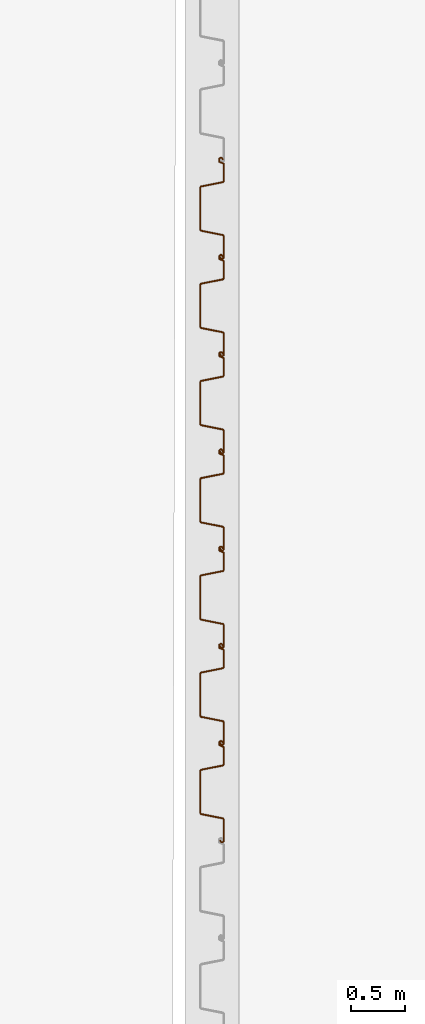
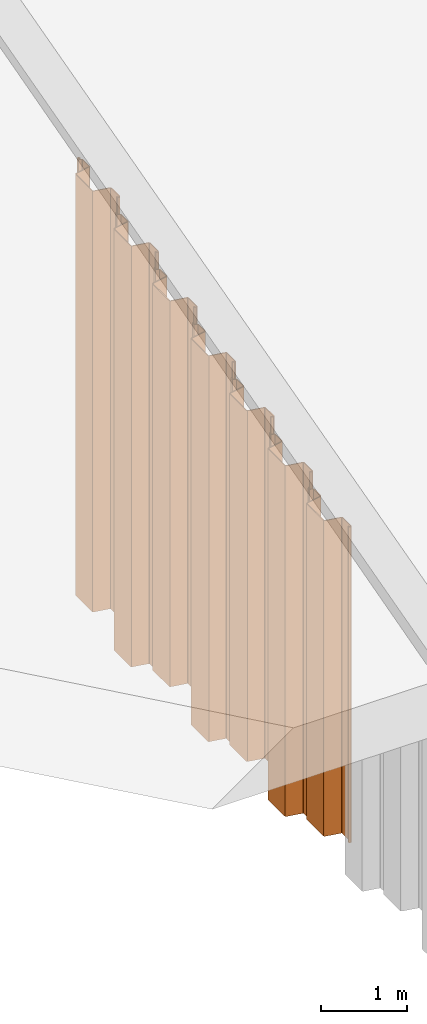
# One storey, part 5 of 32: 7 proxies.
"""IFC2X3 building model written with IfcOpenShell, lengths in millimetres."""

from ifc_helpers import new_model, entity, si_unit, converted_unit, derived_unit, direction, frame, frame_2d, origin, place, context, subcontext, project, spatial, polyline, circle_curve, parameter, trimmed, segment, composite_curve, outline, extrude, source, transform, mapped, type_object, type_shapes, element, save


model = new_model("IFC2X3")

# Units and contexts
model_context = context("Model", 3, precision=0.01, world=origin(), true_north=direction((6.12303176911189e-17, 1.0)))
body_context = subcontext(model_context, "Body", "Model", "MODEL_VIEW")
ifc_project = project(units=[si_unit("LENGTHUNIT", "METRE", prefix="MILLI"), si_unit("AREAUNIT", "SQUARE_METRE"), si_unit("VOLUMEUNIT", "CUBIC_METRE"), converted_unit("PLANEANGLEUNIT", "DEGREE", entity("IfcRatioMeasure", 0.0174532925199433), si_unit("PLANEANGLEUNIT", "RADIAN"), dimensions=[0, 0, 0, 0, 0, 0, 0]), si_unit("MASSUNIT", "GRAM", prefix="KILO"), derived_unit("MASSDENSITYUNIT", [(si_unit("MASSUNIT", "GRAM", prefix="KILO"), 1), (si_unit("LENGTHUNIT", "METRE"), -3)]), si_unit("TIMEUNIT", "SECOND"), si_unit("FREQUENCYUNIT", "HERTZ"), si_unit("THERMODYNAMICTEMPERATUREUNIT", "DEGREE_CELSIUS"), derived_unit("THERMALTRANSMITTANCEUNIT", [(si_unit("MASSUNIT", "GRAM", prefix="KILO"), 1), (si_unit("THERMODYNAMICTEMPERATUREUNIT", "KELVIN"), -1), (si_unit("TIMEUNIT", "SECOND"), -3)]), derived_unit("VOLUMETRICFLOWRATEUNIT", [(si_unit("LENGTHUNIT", "METRE"), 3), (si_unit("TIMEUNIT", "SECOND"), -1)]), si_unit("ELECTRICCURRENTUNIT", "AMPERE"), si_unit("ELECTRICVOLTAGEUNIT", "VOLT"), si_unit("POWERUNIT", "WATT"), si_unit("FORCEUNIT", "NEWTON", prefix="KILO"), si_unit("ILLUMINANCEUNIT", "LUX"), si_unit("LUMINOUSFLUXUNIT", "LUMEN"), si_unit("LUMINOUSINTENSITYUNIT", "CANDELA"), derived_unit("USERDEFINED", [(si_unit("MASSUNIT", "GRAM", prefix="KILO"), -1), (si_unit("LENGTHUNIT", "METRE"), -2), (si_unit("TIMEUNIT", "SECOND"), 3), (si_unit("LUMINOUSFLUXUNIT", "LUMEN"), 1)]), derived_unit("LINEARVELOCITYUNIT", [(si_unit("LENGTHUNIT", "METRE"), 1), (si_unit("TIMEUNIT", "SECOND"), -1)]), si_unit("PRESSUREUNIT", "PASCAL"), derived_unit("USERDEFINED", [(si_unit("LENGTHUNIT", "METRE"), -2), (si_unit("MASSUNIT", "GRAM", prefix="KILO"), 1), (si_unit("TIMEUNIT", "SECOND"), -2)])], contexts=[model_context])

# Site, building, storey
site_placement = place(None, origin())
site = spatial("IfcSite", under=ifc_project, at=site_placement, Name="Default", CompositionType="ELEMENT")
building_placement = place(site_placement, origin())
building = spatial("IfcBuilding", under=site, at=building_placement, CompositionType="ELEMENT")
storey_placement = place(building_placement, origin())
storey = spatial("IfcBuildingStorey", under=building, at=storey_placement, Name="矢板", CompositionType="ELEMENT", Elevation=0.0)

# Proxies
building_element_proxy_type_1 = type_object("IfcBuildingElementProxyType", Name="鋼矢板10H型", PredefinedType="NOTDEFINED")
shared_shape_1 = source(origin(), body_context, "Body", "SweptSolid", [
    extrude(outline(composite_curve([segment(trimmed(circle_curve(frame_2d((85.3662976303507, 306.644432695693), x_axis=(0.422618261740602, 0.906307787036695)), 13.885714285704), [parameter(24.9999999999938)], [parameter(90.0000000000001)], True, "PARAMETER"), True, "CONTINUOUS"), segment(polyline([(72.7815666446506, 312.512789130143), (9.8129512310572, 177.476157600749)]), True, "CONTINUOUS"), segment(trimmed(circle_curve(frame_2d((29.3891994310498, 168.347603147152), x_axis=(0.422618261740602, 0.906307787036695)), 21.6), [parameter(90.0000000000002)], [parameter(168.69006752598)], True, "PARAMETER"), True, "CONTINUOUS"), segment(polyline([(16.598697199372, 150.941769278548), (175.329723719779, 34.2998683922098)]), True, "CONTINUOUS"), segment(trimmed(circle_curve(frame_2d((168.93447260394, 25.596951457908), x_axis=(0.422618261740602, 0.906307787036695)), 10.7999999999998), [parameter(270.0)], [parameter(348.690067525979)], True, "PARAMETER"), False, "CONTINUOUS"), segment(polyline([(178.722596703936, 21.0326742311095), (18.2974003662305, -323.000269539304)]), True, "CONTINUOUS"), segment(trimmed(circle_curve(frame_2d((8.50927626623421, -318.435992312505), x_axis=(0.422618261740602, 0.906307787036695)), 10.8), [parameter(191.30993247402)], [parameter(269.999999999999)], True, "PARAMETER"), False, "CONTINUOUS"), segment(polyline([(5.95324328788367, -328.929166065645), (-185.429973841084, -282.310113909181)]), True, "CONTINUOUS"), segment(trimmed(circle_curve(frame_2d((-190.542039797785, -303.296461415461), x_axis=(0.422618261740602, 0.906307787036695)), 21.6000000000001), [parameter(11.3099324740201)], [parameter(90.0000000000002)], True, "PARAMETER"), True, "CONTINUOUS"), segment(polyline([(-210.118287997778, -294.167906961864), (-290.330886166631, -466.184378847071)]), True, "CONTINUOUS"), segment(trimmed(circle_curve(frame_2d((-270.754637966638, -475.312933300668), x_axis=(0.422618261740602, 0.906307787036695)), 21.6), [parameter(90.0000000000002)], [parameter(269.999999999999)], True, "PARAMETER"), True, "CONTINUOUS"), segment(polyline([(-251.178389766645, -484.441487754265), (-249.065298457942, -479.909948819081)]), True, "CONTINUOUS"), segment(polyline([(-249.065298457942, -479.909948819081), (-258.853422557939, -475.345671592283)]), True, "CONTINUOUS"), segment(polyline([(-258.853422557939, -475.345671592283), (-260.966513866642, -479.877210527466)]), True, "CONTINUOUS"), segment(trimmed(circle_curve(frame_2d((-270.754637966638, -475.312933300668), x_axis=(0.422618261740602, 0.906307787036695)), 10.8), [parameter(90.0000000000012)], [parameter(270.0)], True, "PARAMETER"), False, "CONTINUOUS"), segment(polyline([(-280.542762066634, -470.748656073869), (-200.330163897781, -298.732184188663)]), True, "CONTINUOUS"), segment(trimmed(circle_curve(frame_2d((-190.542039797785, -303.296461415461), x_axis=(0.422618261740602, 0.906307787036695)), 10.8), [parameter(11.3099324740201)], [parameter(89.9999999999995)], True, "PARAMETER"), False, "CONTINUOUS"), segment(polyline([(-187.986006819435, -292.803287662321), (3.39721030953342, -339.422339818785)]), True, "CONTINUOUS"), segment(trimmed(circle_curve(frame_2d((8.50927626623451, -318.435992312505), x_axis=(0.422618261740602, 0.906307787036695)), 21.6), [parameter(191.30993247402)], [parameter(270.0)], True, "PARAMETER"), True, "CONTINUOUS"), segment(polyline([(28.0855244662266, -327.564546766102), (188.510720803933, 16.4683970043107)]), True, "CONTINUOUS"), segment(trimmed(circle_curve(frame_2d((168.93447260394, 25.5969514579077), x_axis=(0.422618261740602, 0.906307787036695)), 21.6), [parameter(270.0)], [parameter(348.69006752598)], True, "PARAMETER"), True, "CONTINUOUS"), segment(polyline([(181.724974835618, 43.0027853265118), (22.9939483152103, 159.644686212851)]), True, "CONTINUOUS"), segment(trimmed(circle_curve(frame_2d((29.3891994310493, 168.347603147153), x_axis=(0.422618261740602, 0.906307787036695)), 10.7999999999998), [parameter(89.9999999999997)], [parameter(168.690067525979)], True, "PARAMETER"), False, "CONTINUOUS"), segment(polyline([(19.6010753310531, 172.911880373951), (82.5696907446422, 307.948511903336)]), True, "CONTINUOUS"), segment(trimmed(circle_curve(frame_2d((85.3662976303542, 306.64443269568), x_axis=(0.422618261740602, 0.906307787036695)), 3.08571428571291), [parameter(25.0000000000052)], [parameter(90.0000000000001)], True, "PARAMETER"), False, "CONTINUOUS"), segment(polyline([(85.3662976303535, 309.730146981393), (122.220231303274, 309.730146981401)]), True, "CONTINUOUS"), segment(trimmed(circle_curve(frame_2d((122.220231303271, 323.615861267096), x_axis=(0.422618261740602, 0.906307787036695)), 13.8857142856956), [parameter(205.000000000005)], [parameter(270.0)], True, "PARAMETER"), True, "CONTINUOUS"), segment(polyline([(134.804962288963, 317.747504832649), (141.079261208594, 331.202782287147)]), True, "CONTINUOUS"), segment(trimmed(circle_curve(frame_2d((121.503013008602, 340.331336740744), x_axis=(0.422618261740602, 0.906307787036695)), 21.6), [parameter(270.0)], [parameter(90.0000000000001)], True, "PARAMETER"), True, "CONTINUOUS"), segment(polyline([(101.926764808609, 349.459891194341), (99.8136734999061, 344.928352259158)]), True, "CONTINUOUS"), segment(polyline([(99.8136734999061, 344.928352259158), (109.601797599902, 340.364075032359)]), True, "CONTINUOUS"), segment(polyline([(109.601797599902, 340.364075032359), (111.714888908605, 344.895613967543)]), True, "CONTINUOUS"), segment(trimmed(circle_curve(frame_2d((121.503013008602, 340.331336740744), x_axis=(0.422618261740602, 0.906307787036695)), 10.8), [parameter(270.0)], [parameter(89.9999999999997)], True, "PARAMETER"), False, "CONTINUOUS"), segment(polyline([(131.291137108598, 335.767059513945), (125.01683818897, 322.311782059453)]), True, "CONTINUOUS"), segment(trimmed(circle_curve(frame_2d((122.220231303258, 323.615861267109), x_axis=(0.422618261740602, 0.906307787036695)), 3.08571428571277), [parameter(204.999999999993)], [parameter(270.0)], True, "PARAMETER"), False, "CONTINUOUS"), segment(polyline([(122.220231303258, 320.530146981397), (85.3662976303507, 320.530146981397)]), True, "CONTINUOUS")], self_intersect=False)), frame((95.205667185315, -48.8888888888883, -6000.0), z_axis=(0.0, 0.0, -1.0), x_axis=(0.4226182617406, 0.906307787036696, 0.0)), (0.0, 0.0, -1.0), 6000.0),
])
type_shapes(building_element_proxy_type_1, [shared_shape_1])
for number, where, z_axis, x_axis in (
    (1, (-128208.0, -24049.0, 8234.0), (0.0, 0.0, 1.0), (0.0, 1.0, 0.0)),
    (2, (-128208.0, -24949.0, 7997.0), (0.0, 0.0, 1.0), (0.0, 1.0, 0.0)),
):
    element("IfcBuildingElementProxy", number, at=place(storey_placement, frame(where, z_axis=z_axis, x_axis=x_axis)), inside=storey, type_object=building_element_proxy_type_1, Name="鋼矢板10H型:鋼矢板10H型", ObjectType="鋼矢板10H型:鋼矢板10H型", context=body_context, shape_type="MappedRepresentation", body=[
        mapped(shared_shape_1, transform((0.0, 0.0, 0.0), scale=1.0)),
    ])
building_element_proxy_type_2 = type_object("IfcBuildingElementProxyType", Name="鋼矢板10H型", PredefinedType="NOTDEFINED")
shared_shape_2 = source(origin(), body_context, "Body", "SweptSolid", [
    extrude(outline(composite_curve([segment(trimmed(circle_curve(frame_2d((85.3662976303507, 306.644432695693), x_axis=(0.422618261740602, 0.906307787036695)), 13.885714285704), [parameter(24.9999999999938)], [parameter(90.0000000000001)], True, "PARAMETER"), True, "CONTINUOUS"), segment(polyline([(72.7815666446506, 312.512789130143), (9.8129512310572, 177.476157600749)]), True, "CONTINUOUS"), segment(trimmed(circle_curve(frame_2d((29.3891994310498, 168.347603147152), x_axis=(0.422618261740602, 0.906307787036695)), 21.6), [parameter(90.0000000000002)], [parameter(168.69006752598)], True, "PARAMETER"), True, "CONTINUOUS"), segment(polyline([(16.598697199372, 150.941769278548), (175.329723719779, 34.2998683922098)]), True, "CONTINUOUS"), segment(trimmed(circle_curve(frame_2d((168.93447260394, 25.596951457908), x_axis=(0.422618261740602, 0.906307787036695)), 10.7999999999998), [parameter(270.0)], [parameter(348.690067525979)], True, "PARAMETER"), False, "CONTINUOUS"), segment(polyline([(178.722596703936, 21.0326742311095), (18.2974003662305, -323.000269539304)]), True, "CONTINUOUS"), segment(trimmed(circle_curve(frame_2d((8.50927626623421, -318.435992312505), x_axis=(0.422618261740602, 0.906307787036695)), 10.8), [parameter(191.30993247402)], [parameter(269.999999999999)], True, "PARAMETER"), False, "CONTINUOUS"), segment(polyline([(5.95324328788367, -328.929166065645), (-185.429973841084, -282.310113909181)]), True, "CONTINUOUS"), segment(trimmed(circle_curve(frame_2d((-190.542039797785, -303.296461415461), x_axis=(0.422618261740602, 0.906307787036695)), 21.6000000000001), [parameter(11.3099324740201)], [parameter(90.0000000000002)], True, "PARAMETER"), True, "CONTINUOUS"), segment(polyline([(-210.118287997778, -294.167906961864), (-290.330886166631, -466.184378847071)]), True, "CONTINUOUS"), segment(trimmed(circle_curve(frame_2d((-270.754637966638, -475.312933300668), x_axis=(0.422618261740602, 0.906307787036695)), 21.6), [parameter(90.0000000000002)], [parameter(269.999999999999)], True, "PARAMETER"), True, "CONTINUOUS"), segment(polyline([(-251.178389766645, -484.441487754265), (-249.065298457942, -479.909948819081)]), True, "CONTINUOUS"), segment(polyline([(-249.065298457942, -479.909948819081), (-258.853422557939, -475.345671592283)]), True, "CONTINUOUS"), segment(polyline([(-258.853422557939, -475.345671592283), (-260.966513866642, -479.877210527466)]), True, "CONTINUOUS"), segment(trimmed(circle_curve(frame_2d((-270.754637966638, -475.312933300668), x_axis=(0.422618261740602, 0.906307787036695)), 10.8), [parameter(90.0000000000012)], [parameter(270.0)], True, "PARAMETER"), False, "CONTINUOUS"), segment(polyline([(-280.542762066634, -470.748656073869), (-200.330163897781, -298.732184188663)]), True, "CONTINUOUS"), segment(trimmed(circle_curve(frame_2d((-190.542039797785, -303.296461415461), x_axis=(0.422618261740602, 0.906307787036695)), 10.8), [parameter(11.3099324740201)], [parameter(89.9999999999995)], True, "PARAMETER"), False, "CONTINUOUS"), segment(polyline([(-187.986006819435, -292.803287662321), (3.39721030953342, -339.422339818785)]), True, "CONTINUOUS"), segment(trimmed(circle_curve(frame_2d((8.50927626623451, -318.435992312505), x_axis=(0.422618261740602, 0.906307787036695)), 21.6), [parameter(191.30993247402)], [parameter(270.0)], True, "PARAMETER"), True, "CONTINUOUS"), segment(polyline([(28.0855244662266, -327.564546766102), (188.510720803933, 16.4683970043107)]), True, "CONTINUOUS"), segment(trimmed(circle_curve(frame_2d((168.93447260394, 25.5969514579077), x_axis=(0.422618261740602, 0.906307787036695)), 21.6), [parameter(270.0)], [parameter(348.69006752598)], True, "PARAMETER"), True, "CONTINUOUS"), segment(polyline([(181.724974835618, 43.0027853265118), (22.9939483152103, 159.644686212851)]), True, "CONTINUOUS"), segment(trimmed(circle_curve(frame_2d((29.3891994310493, 168.347603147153), x_axis=(0.422618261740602, 0.906307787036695)), 10.7999999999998), [parameter(89.9999999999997)], [parameter(168.690067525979)], True, "PARAMETER"), False, "CONTINUOUS"), segment(polyline([(19.6010753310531, 172.911880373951), (82.5696907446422, 307.948511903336)]), True, "CONTINUOUS"), segment(trimmed(circle_curve(frame_2d((85.3662976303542, 306.64443269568), x_axis=(0.422618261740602, 0.906307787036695)), 3.08571428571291), [parameter(25.0000000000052)], [parameter(90.0000000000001)], True, "PARAMETER"), False, "CONTINUOUS"), segment(polyline([(85.3662976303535, 309.730146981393), (122.220231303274, 309.730146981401)]), True, "CONTINUOUS"), segment(trimmed(circle_curve(frame_2d((122.220231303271, 323.615861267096), x_axis=(0.422618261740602, 0.906307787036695)), 13.8857142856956), [parameter(205.000000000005)], [parameter(270.0)], True, "PARAMETER"), True, "CONTINUOUS"), segment(polyline([(134.804962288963, 317.747504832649), (141.079261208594, 331.202782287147)]), True, "CONTINUOUS"), segment(trimmed(circle_curve(frame_2d((121.503013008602, 340.331336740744), x_axis=(0.422618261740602, 0.906307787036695)), 21.6), [parameter(270.0)], [parameter(90.0000000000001)], True, "PARAMETER"), True, "CONTINUOUS"), segment(polyline([(101.926764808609, 349.459891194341), (99.8136734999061, 344.928352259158)]), True, "CONTINUOUS"), segment(polyline([(99.8136734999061, 344.928352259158), (109.601797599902, 340.364075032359)]), True, "CONTINUOUS"), segment(polyline([(109.601797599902, 340.364075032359), (111.714888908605, 344.895613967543)]), True, "CONTINUOUS"), segment(trimmed(circle_curve(frame_2d((121.503013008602, 340.331336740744), x_axis=(0.422618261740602, 0.906307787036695)), 10.8), [parameter(270.0)], [parameter(89.9999999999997)], True, "PARAMETER"), False, "CONTINUOUS"), segment(polyline([(131.291137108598, 335.767059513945), (125.01683818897, 322.311782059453)]), True, "CONTINUOUS"), segment(trimmed(circle_curve(frame_2d((122.220231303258, 323.615861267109), x_axis=(0.422618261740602, 0.906307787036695)), 3.08571428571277), [parameter(204.999999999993)], [parameter(270.0)], True, "PARAMETER"), False, "CONTINUOUS"), segment(polyline([(122.220231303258, 320.530146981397), (85.3662976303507, 320.530146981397)]), True, "CONTINUOUS")], self_intersect=False)), frame((95.205667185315, -48.8888888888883, -5500.0), z_axis=(0.0, 0.0, -1.0), x_axis=(0.4226182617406, 0.906307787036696, 0.0)), (0.0, 0.0, -1.0), 5500.0),
])
type_shapes(building_element_proxy_type_2, [shared_shape_2])
for number, where, z_axis, x_axis in (
    (3, (-128208.0, -25849.0, 7760.0), (0.0, 0.0, 1.0), (0.0, 1.0, 0.0)),
    (4, (-128208.0, -26749.0, 7523.0), (0.0, 0.0, 1.0), (0.0, 1.0, 0.0)),
):
    element("IfcBuildingElementProxy", number, at=place(storey_placement, frame(where, z_axis=z_axis, x_axis=x_axis)), inside=storey, type_object=building_element_proxy_type_2, Name="鋼矢板10H型:鋼矢板10H型", ObjectType="鋼矢板10H型:鋼矢板10H型", context=body_context, shape_type="MappedRepresentation", body=[
        mapped(shared_shape_2, transform((0.0, 0.0, 0.0), scale=1.0)),
    ])
building_element_proxy_type_3 = type_object("IfcBuildingElementProxyType", Name="鋼矢板10H型", PredefinedType="NOTDEFINED")
shared_shape_3 = source(origin(), body_context, "Body", "SweptSolid", [
    extrude(outline(composite_curve([segment(trimmed(circle_curve(frame_2d((85.3662976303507, 306.644432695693), x_axis=(0.422618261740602, 0.906307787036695)), 13.885714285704), [parameter(24.9999999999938)], [parameter(90.0000000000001)], True, "PARAMETER"), True, "CONTINUOUS"), segment(polyline([(72.7815666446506, 312.512789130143), (9.8129512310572, 177.476157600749)]), True, "CONTINUOUS"), segment(trimmed(circle_curve(frame_2d((29.3891994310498, 168.347603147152), x_axis=(0.422618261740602, 0.906307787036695)), 21.6), [parameter(90.0000000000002)], [parameter(168.69006752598)], True, "PARAMETER"), True, "CONTINUOUS"), segment(polyline([(16.598697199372, 150.941769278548), (175.329723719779, 34.2998683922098)]), True, "CONTINUOUS"), segment(trimmed(circle_curve(frame_2d((168.93447260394, 25.596951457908), x_axis=(0.422618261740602, 0.906307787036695)), 10.7999999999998), [parameter(270.0)], [parameter(348.690067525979)], True, "PARAMETER"), False, "CONTINUOUS"), segment(polyline([(178.722596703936, 21.0326742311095), (18.2974003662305, -323.000269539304)]), True, "CONTINUOUS"), segment(trimmed(circle_curve(frame_2d((8.50927626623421, -318.435992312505), x_axis=(0.422618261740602, 0.906307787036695)), 10.8), [parameter(191.30993247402)], [parameter(269.999999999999)], True, "PARAMETER"), False, "CONTINUOUS"), segment(polyline([(5.95324328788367, -328.929166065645), (-185.429973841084, -282.310113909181)]), True, "CONTINUOUS"), segment(trimmed(circle_curve(frame_2d((-190.542039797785, -303.296461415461), x_axis=(0.422618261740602, 0.906307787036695)), 21.6000000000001), [parameter(11.3099324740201)], [parameter(90.0000000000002)], True, "PARAMETER"), True, "CONTINUOUS"), segment(polyline([(-210.118287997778, -294.167906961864), (-290.330886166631, -466.184378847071)]), True, "CONTINUOUS"), segment(trimmed(circle_curve(frame_2d((-270.754637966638, -475.312933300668), x_axis=(0.422618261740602, 0.906307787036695)), 21.6), [parameter(90.0000000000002)], [parameter(269.999999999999)], True, "PARAMETER"), True, "CONTINUOUS"), segment(polyline([(-251.178389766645, -484.441487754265), (-249.065298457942, -479.909948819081)]), True, "CONTINUOUS"), segment(polyline([(-249.065298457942, -479.909948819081), (-258.853422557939, -475.345671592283)]), True, "CONTINUOUS"), segment(polyline([(-258.853422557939, -475.345671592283), (-260.966513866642, -479.877210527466)]), True, "CONTINUOUS"), segment(trimmed(circle_curve(frame_2d((-270.754637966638, -475.312933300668), x_axis=(0.422618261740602, 0.906307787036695)), 10.8), [parameter(90.0000000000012)], [parameter(270.0)], True, "PARAMETER"), False, "CONTINUOUS"), segment(polyline([(-280.542762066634, -470.748656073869), (-200.330163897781, -298.732184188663)]), True, "CONTINUOUS"), segment(trimmed(circle_curve(frame_2d((-190.542039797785, -303.296461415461), x_axis=(0.422618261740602, 0.906307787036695)), 10.8), [parameter(11.3099324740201)], [parameter(89.9999999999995)], True, "PARAMETER"), False, "CONTINUOUS"), segment(polyline([(-187.986006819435, -292.803287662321), (3.39721030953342, -339.422339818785)]), True, "CONTINUOUS"), segment(trimmed(circle_curve(frame_2d((8.50927626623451, -318.435992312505), x_axis=(0.422618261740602, 0.906307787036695)), 21.6), [parameter(191.30993247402)], [parameter(270.0)], True, "PARAMETER"), True, "CONTINUOUS"), segment(polyline([(28.0855244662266, -327.564546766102), (188.510720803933, 16.4683970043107)]), True, "CONTINUOUS"), segment(trimmed(circle_curve(frame_2d((168.93447260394, 25.5969514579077), x_axis=(0.422618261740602, 0.906307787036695)), 21.6), [parameter(270.0)], [parameter(348.69006752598)], True, "PARAMETER"), True, "CONTINUOUS"), segment(polyline([(181.724974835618, 43.0027853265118), (22.9939483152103, 159.644686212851)]), True, "CONTINUOUS"), segment(trimmed(circle_curve(frame_2d((29.3891994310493, 168.347603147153), x_axis=(0.422618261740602, 0.906307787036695)), 10.7999999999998), [parameter(89.9999999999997)], [parameter(168.690067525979)], True, "PARAMETER"), False, "CONTINUOUS"), segment(polyline([(19.6010753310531, 172.911880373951), (82.5696907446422, 307.948511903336)]), True, "CONTINUOUS"), segment(trimmed(circle_curve(frame_2d((85.3662976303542, 306.64443269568), x_axis=(0.422618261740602, 0.906307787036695)), 3.08571428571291), [parameter(25.0000000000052)], [parameter(90.0000000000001)], True, "PARAMETER"), False, "CONTINUOUS"), segment(polyline([(85.3662976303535, 309.730146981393), (122.220231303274, 309.730146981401)]), True, "CONTINUOUS"), segment(trimmed(circle_curve(frame_2d((122.220231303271, 323.615861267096), x_axis=(0.422618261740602, 0.906307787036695)), 13.8857142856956), [parameter(205.000000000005)], [parameter(270.0)], True, "PARAMETER"), True, "CONTINUOUS"), segment(polyline([(134.804962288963, 317.747504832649), (141.079261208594, 331.202782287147)]), True, "CONTINUOUS"), segment(trimmed(circle_curve(frame_2d((121.503013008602, 340.331336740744), x_axis=(0.422618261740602, 0.906307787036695)), 21.6), [parameter(270.0)], [parameter(90.0000000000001)], True, "PARAMETER"), True, "CONTINUOUS"), segment(polyline([(101.926764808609, 349.459891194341), (99.8136734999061, 344.928352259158)]), True, "CONTINUOUS"), segment(polyline([(99.8136734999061, 344.928352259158), (109.601797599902, 340.364075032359)]), True, "CONTINUOUS"), segment(polyline([(109.601797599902, 340.364075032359), (111.714888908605, 344.895613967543)]), True, "CONTINUOUS"), segment(trimmed(circle_curve(frame_2d((121.503013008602, 340.331336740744), x_axis=(0.422618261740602, 0.906307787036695)), 10.8), [parameter(270.0)], [parameter(89.9999999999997)], True, "PARAMETER"), False, "CONTINUOUS"), segment(polyline([(131.291137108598, 335.767059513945), (125.01683818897, 322.311782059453)]), True, "CONTINUOUS"), segment(trimmed(circle_curve(frame_2d((122.220231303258, 323.615861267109), x_axis=(0.422618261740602, 0.906307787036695)), 3.08571428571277), [parameter(204.999999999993)], [parameter(270.0)], True, "PARAMETER"), False, "CONTINUOUS"), segment(polyline([(122.220231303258, 320.530146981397), (85.3662976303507, 320.530146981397)]), True, "CONTINUOUS")], self_intersect=False)), frame((95.205667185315, -48.8888888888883, -5000.0), z_axis=(0.0, 0.0, -1.0), x_axis=(0.4226182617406, 0.906307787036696, 0.0)), (0.0, 0.0, -1.0), 5000.0),
])
type_shapes(building_element_proxy_type_3, [shared_shape_3])
for number, where, z_axis, x_axis in (
    (5, (-128208.0, -27649.0, 7286.0), (0.0, 0.0, 1.0), (0.0, 1.0, 0.0)),
    (6, (-128208.0, -28549.0, 7049.0), (0.0, 0.0, 1.0), (0.0, 1.0, 0.0)),
):
    element("IfcBuildingElementProxy", number, at=place(storey_placement, frame(where, z_axis=z_axis, x_axis=x_axis)), inside=storey, type_object=building_element_proxy_type_3, Name="鋼矢板10H型:鋼矢板10H型", ObjectType="鋼矢板10H型:鋼矢板10H型", context=body_context, shape_type="MappedRepresentation", body=[
        mapped(shared_shape_3, transform((0.0, 0.0, 0.0), scale=1.0)),
    ])
building_element_proxy_type_4 = type_object("IfcBuildingElementProxyType", Name="鋼矢板10H型", PredefinedType="NOTDEFINED")
shared_shape_4 = source(origin(), body_context, "Body", "SweptSolid", [
    extrude(outline(composite_curve([segment(trimmed(circle_curve(frame_2d((85.3662976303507, 306.644432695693), x_axis=(0.422618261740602, 0.906307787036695)), 13.885714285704), [parameter(24.9999999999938)], [parameter(90.0000000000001)], True, "PARAMETER"), True, "CONTINUOUS"), segment(polyline([(72.7815666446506, 312.512789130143), (9.8129512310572, 177.476157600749)]), True, "CONTINUOUS"), segment(trimmed(circle_curve(frame_2d((29.3891994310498, 168.347603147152), x_axis=(0.422618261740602, 0.906307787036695)), 21.6), [parameter(90.0000000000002)], [parameter(168.69006752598)], True, "PARAMETER"), True, "CONTINUOUS"), segment(polyline([(16.598697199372, 150.941769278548), (175.329723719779, 34.2998683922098)]), True, "CONTINUOUS"), segment(trimmed(circle_curve(frame_2d((168.93447260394, 25.596951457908), x_axis=(0.422618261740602, 0.906307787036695)), 10.7999999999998), [parameter(270.0)], [parameter(348.690067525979)], True, "PARAMETER"), False, "CONTINUOUS"), segment(polyline([(178.722596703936, 21.0326742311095), (18.2974003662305, -323.000269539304)]), True, "CONTINUOUS"), segment(trimmed(circle_curve(frame_2d((8.50927626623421, -318.435992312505), x_axis=(0.422618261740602, 0.906307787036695)), 10.8), [parameter(191.30993247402)], [parameter(269.999999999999)], True, "PARAMETER"), False, "CONTINUOUS"), segment(polyline([(5.95324328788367, -328.929166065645), (-185.429973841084, -282.310113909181)]), True, "CONTINUOUS"), segment(trimmed(circle_curve(frame_2d((-190.542039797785, -303.296461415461), x_axis=(0.422618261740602, 0.906307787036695)), 21.6000000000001), [parameter(11.3099324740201)], [parameter(90.0000000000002)], True, "PARAMETER"), True, "CONTINUOUS"), segment(polyline([(-210.118287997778, -294.167906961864), (-290.330886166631, -466.184378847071)]), True, "CONTINUOUS"), segment(trimmed(circle_curve(frame_2d((-270.754637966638, -475.312933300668), x_axis=(0.422618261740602, 0.906307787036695)), 21.6), [parameter(90.0000000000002)], [parameter(269.999999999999)], True, "PARAMETER"), True, "CONTINUOUS"), segment(polyline([(-251.178389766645, -484.441487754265), (-249.065298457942, -479.909948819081)]), True, "CONTINUOUS"), segment(polyline([(-249.065298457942, -479.909948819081), (-258.853422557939, -475.345671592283)]), True, "CONTINUOUS"), segment(polyline([(-258.853422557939, -475.345671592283), (-260.966513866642, -479.877210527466)]), True, "CONTINUOUS"), segment(trimmed(circle_curve(frame_2d((-270.754637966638, -475.312933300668), x_axis=(0.422618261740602, 0.906307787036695)), 10.8), [parameter(90.0000000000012)], [parameter(270.0)], True, "PARAMETER"), False, "CONTINUOUS"), segment(polyline([(-280.542762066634, -470.748656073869), (-200.330163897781, -298.732184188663)]), True, "CONTINUOUS"), segment(trimmed(circle_curve(frame_2d((-190.542039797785, -303.296461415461), x_axis=(0.422618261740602, 0.906307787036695)), 10.8), [parameter(11.3099324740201)], [parameter(89.9999999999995)], True, "PARAMETER"), False, "CONTINUOUS"), segment(polyline([(-187.986006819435, -292.803287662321), (3.39721030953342, -339.422339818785)]), True, "CONTINUOUS"), segment(trimmed(circle_curve(frame_2d((8.50927626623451, -318.435992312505), x_axis=(0.422618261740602, 0.906307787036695)), 21.6), [parameter(191.30993247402)], [parameter(270.0)], True, "PARAMETER"), True, "CONTINUOUS"), segment(polyline([(28.0855244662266, -327.564546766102), (188.510720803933, 16.4683970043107)]), True, "CONTINUOUS"), segment(trimmed(circle_curve(frame_2d((168.93447260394, 25.5969514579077), x_axis=(0.422618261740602, 0.906307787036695)), 21.6), [parameter(270.0)], [parameter(348.69006752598)], True, "PARAMETER"), True, "CONTINUOUS"), segment(polyline([(181.724974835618, 43.0027853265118), (22.9939483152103, 159.644686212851)]), True, "CONTINUOUS"), segment(trimmed(circle_curve(frame_2d((29.3891994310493, 168.347603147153), x_axis=(0.422618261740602, 0.906307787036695)), 10.7999999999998), [parameter(89.9999999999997)], [parameter(168.690067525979)], True, "PARAMETER"), False, "CONTINUOUS"), segment(polyline([(19.6010753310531, 172.911880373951), (82.5696907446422, 307.948511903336)]), True, "CONTINUOUS"), segment(trimmed(circle_curve(frame_2d((85.3662976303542, 306.64443269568), x_axis=(0.422618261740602, 0.906307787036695)), 3.08571428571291), [parameter(25.0000000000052)], [parameter(90.0000000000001)], True, "PARAMETER"), False, "CONTINUOUS"), segment(polyline([(85.3662976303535, 309.730146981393), (122.220231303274, 309.730146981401)]), True, "CONTINUOUS"), segment(trimmed(circle_curve(frame_2d((122.220231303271, 323.615861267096), x_axis=(0.422618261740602, 0.906307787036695)), 13.8857142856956), [parameter(205.000000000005)], [parameter(270.0)], True, "PARAMETER"), True, "CONTINUOUS"), segment(polyline([(134.804962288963, 317.747504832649), (141.079261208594, 331.202782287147)]), True, "CONTINUOUS"), segment(trimmed(circle_curve(frame_2d((121.503013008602, 340.331336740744), x_axis=(0.422618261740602, 0.906307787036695)), 21.6), [parameter(270.0)], [parameter(90.0000000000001)], True, "PARAMETER"), True, "CONTINUOUS"), segment(polyline([(101.926764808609, 349.459891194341), (99.8136734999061, 344.928352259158)]), True, "CONTINUOUS"), segment(polyline([(99.8136734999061, 344.928352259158), (109.601797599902, 340.364075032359)]), True, "CONTINUOUS"), segment(polyline([(109.601797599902, 340.364075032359), (111.714888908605, 344.895613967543)]), True, "CONTINUOUS"), segment(trimmed(circle_curve(frame_2d((121.503013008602, 340.331336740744), x_axis=(0.422618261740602, 0.906307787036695)), 10.8), [parameter(270.0)], [parameter(89.9999999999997)], True, "PARAMETER"), False, "CONTINUOUS"), segment(polyline([(131.291137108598, 335.767059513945), (125.01683818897, 322.311782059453)]), True, "CONTINUOUS"), segment(trimmed(circle_curve(frame_2d((122.220231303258, 323.615861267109), x_axis=(0.422618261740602, 0.906307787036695)), 3.08571428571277), [parameter(204.999999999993)], [parameter(270.0)], True, "PARAMETER"), False, "CONTINUOUS"), segment(polyline([(122.220231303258, 320.530146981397), (85.3662976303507, 320.530146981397)]), True, "CONTINUOUS")], self_intersect=False)), frame((95.205667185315, -48.8888888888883, -4500.0), z_axis=(0.0, 0.0, -1.0), x_axis=(0.4226182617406, 0.906307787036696, 0.0)), (0.0, 0.0, -1.0), 4500.0),
])
type_shapes(building_element_proxy_type_4, [shared_shape_4])
proxy_placement = place(storey_placement, frame((-128208.0, -29449.0, 6812.0), z_axis=(0.0, 0.0, 1.0), x_axis=(0.0, 1.0, 0.0)))
element("IfcBuildingElementProxy", 7, at=proxy_placement, inside=storey, type_object=building_element_proxy_type_4, Name="鋼矢板10H型:鋼矢板10H型", ObjectType="鋼矢板10H型:鋼矢板10H型", context=body_context, shape_type="MappedRepresentation", body=[
    mapped(shared_shape_4, transform((0.0, 0.0, 0.0), scale=1.0)),
])

save(model, "model.ifc")
